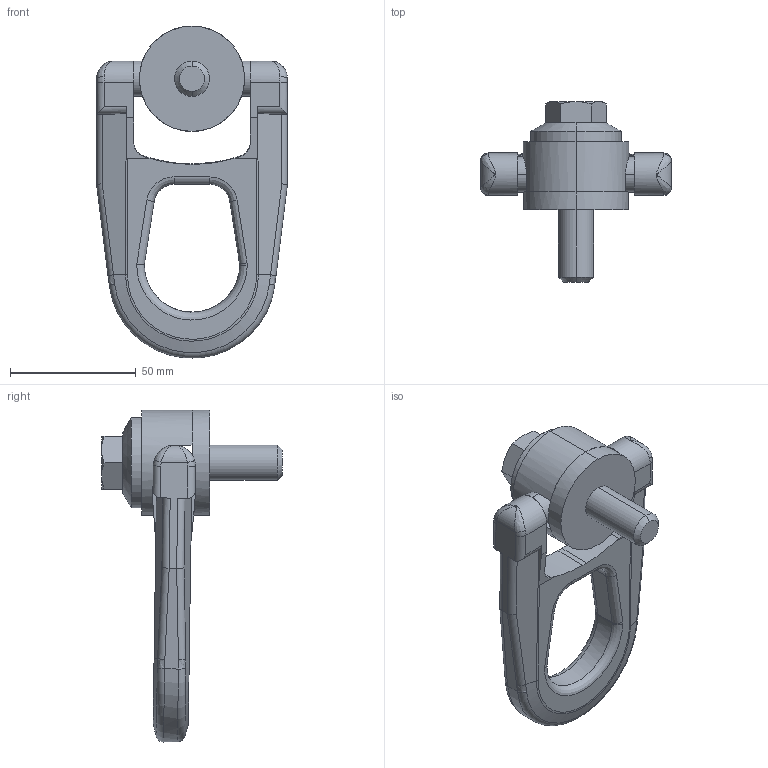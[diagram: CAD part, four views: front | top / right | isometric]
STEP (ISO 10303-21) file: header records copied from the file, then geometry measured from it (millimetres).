
FILE_DESCRIPTION (( 'STEP AP203' ), '1' );
FILE_NAME ('63200.W0014.step', '2013-12-13T15:22:21', ( 'User' ), ( '' ), 'SwSTEP 2.0', 'SolidWorks 2009', '' );
FILE_SCHEMA (( 'CONFIG_CONTROL_DESIGN' ));
Length unit declared in the file: millimetre
Products named in the file (3): 63200.W0014; Part3; Part1_63200.W0014
Assembly tree (2 placements, depth 2):
  63200.W0014
    Part1_63200.W0014
    Part3
Bounding box: 76 x 72 x 132.2 mm (x, y, z)
Volume: 106677.9 mm3; surface area: 26924.6 mm2
Topology: 2 solids, 2 shells, 138 faces, 344 edges, 211 vertices
Faces by surface type: plane 47, cylinder 45, bspline 26, cone 13, torus 7
Entity records: 6798 total; most frequent: CARTESIAN_POINT 3462, ORIENTED_EDGE 688, DIRECTION 578, EDGE_CURVE 344, AXIS2_PLACEMENT_3D 218, VERTEX_POINT 211, EDGE_LOOP 143, LINE 142
